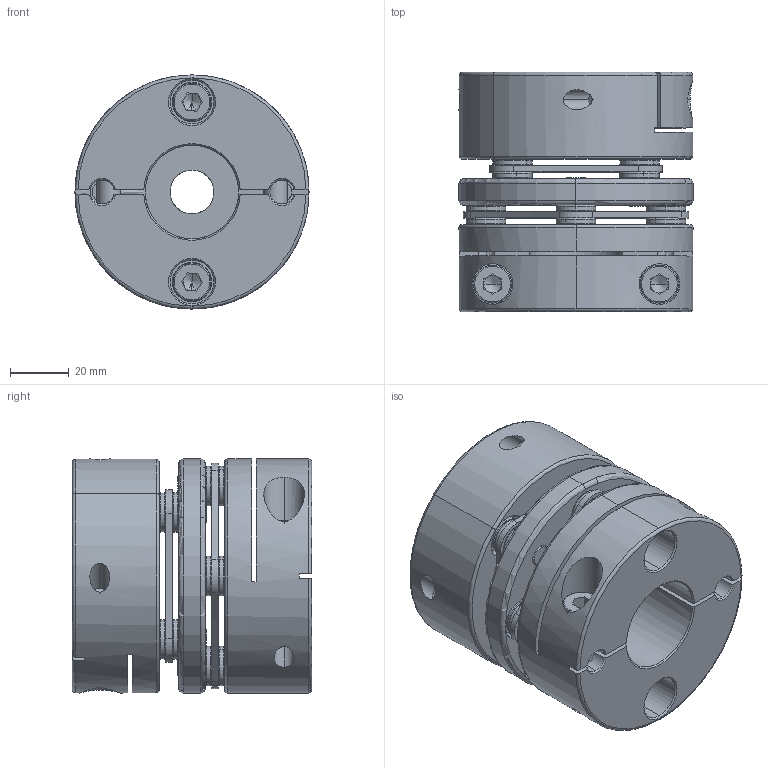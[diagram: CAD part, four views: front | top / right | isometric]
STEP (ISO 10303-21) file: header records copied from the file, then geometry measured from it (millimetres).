
FILE_DESCRIPTION (( 'STEP AP203' ), '1' );
FILE_NAME ('SDW-80C-15X32_203.STEP', '2013-01-08T05:24:35', ( 'MYCOM' ), ( '' ), 'SwSTEP 2.0', 'SolidWorks 2012', '' );
FILE_SCHEMA (( 'CONFIG_CONTROL_DESIGN' ));
Length unit declared in the file: millimetre
Products named in the file (1): SDW-80C-15X32_203
Bounding box: 80 x 81.8 x 80 mm (x, y, z)
Volume: 277399 mm3; surface area: 85928 mm2
Topology: 1 solids, 33 shells, 871 faces, 2114 edges, 1281 vertices
Faces by surface type: plane 266, cylinder 262, torus 182, cone 153, bspline 8
Entity records: 26806 total; most frequent: CARTESIAN_POINT 5635, DIRECTION 4851, ORIENTED_EDGE 4180, EDGE_CURVE 2090, AXIS2_PLACEMENT_3D 2021, VERTEX_POINT 1281, CIRCLE 1157, EDGE_LOOP 981
